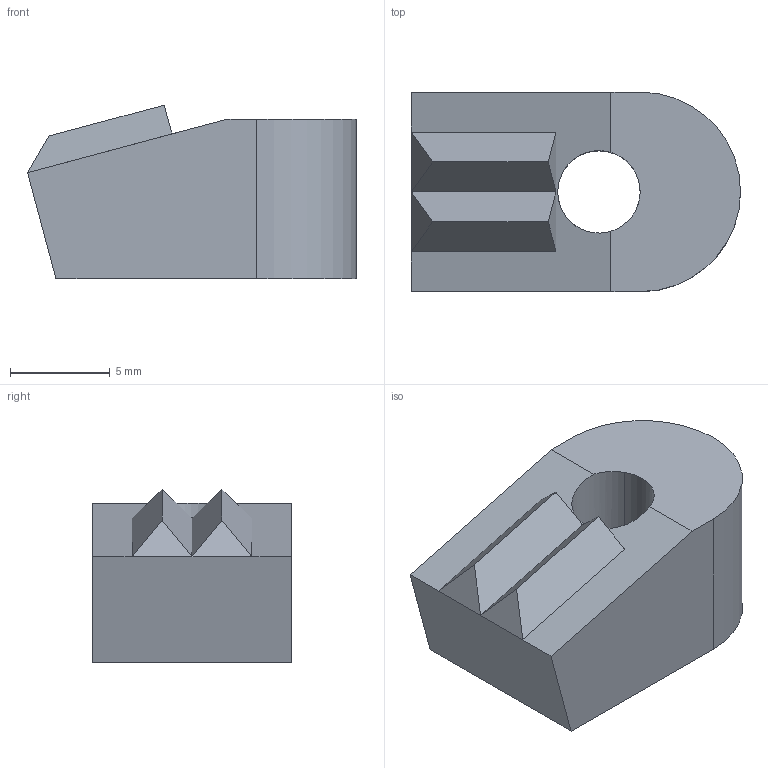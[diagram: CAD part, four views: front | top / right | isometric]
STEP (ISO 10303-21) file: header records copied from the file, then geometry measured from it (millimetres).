
FILE_DESCRIPTION(('CATIA V5 STEP'),'2;1');
FILE_NAME('\\Kjf-102\KJF_TC\Hydraulic_Clamp\Standard\TOGGLE PAD\CP-41\CP-41_-.stp','2020-03-23T08:29:35+00:00',('none'),('none'),'CATIA Version 5 Release 19 SP 6 (IN-10)','CATIA V5 STEP AP214','none');
FILE_SCHEMA(('AUTOMOTIVE_DESIGN { 1 0 10303 214 1 1 1 1 }'));
Length unit declared in the file: millimetre
Products named in the file (1): CP-41_-
Bounding box: 16.5 x 10 x 8.71 mm (x, y, z)
Volume: 966.3 mm3; surface area: 733 mm2
Topology: 1 solids, 1 shells, 20 faces, 48 edges, 30 vertices
Faces by surface type: plane 15, cylinder 5
Entity records: 578 total; most frequent: CARTESIAN_POINT 107, ORIENTED_EDGE 96, DIRECTION 78, EDGE_CURVE 48, VECTOR 36, LINE 36, VERTEX_POINT 30, AXIS2_PLACEMENT_3D 27
